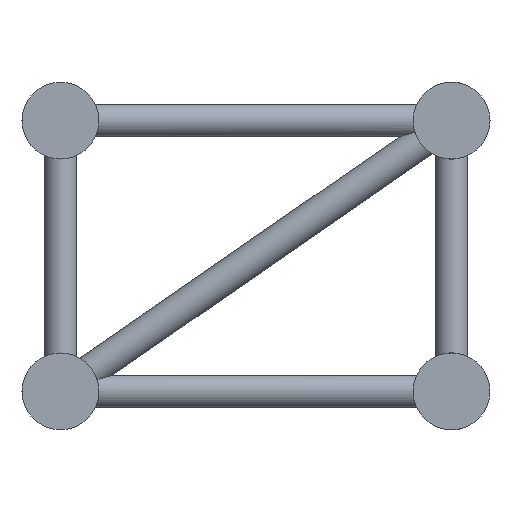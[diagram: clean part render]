
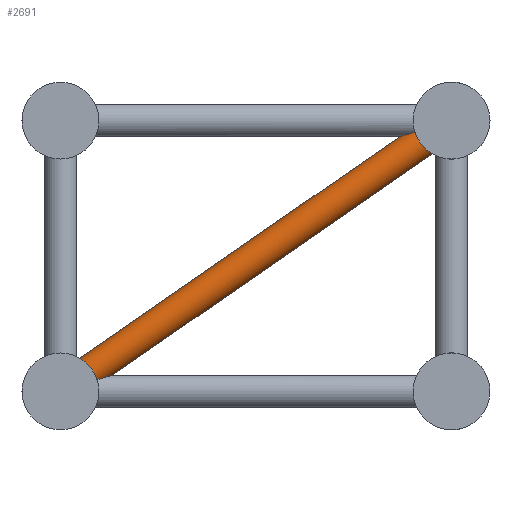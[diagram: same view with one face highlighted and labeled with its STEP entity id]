
A CAD part, left-side view. The second image highlights one B-rep face of the part: STEP entity #2691.
In plain terms, the highlighted cylindrical face has radius 12.5 mm (diameter 25 mm), a full revolution.
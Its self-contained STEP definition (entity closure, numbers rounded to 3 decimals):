
#48=ELLIPSE('',#2993,41.923,12.5);
#49=ELLIPSE('',#2994,41.923,12.5);
#180=FACE_BOUND('',#662,.T.);
#317=CYLINDRICAL_SURFACE('',#2992,12.5);
#434=FACE_OUTER_BOUND('',#661,.T.);
#661=EDGE_LOOP('',(#1913,#1914));
#662=EDGE_LOOP('',(#1915,#1916));
#937=CIRCLE('',#2987,12.5);
#938=CIRCLE('',#2991,12.5);
#1192=VERTEX_POINT('',#5274);
#1194=VERTEX_POINT('',#5278);
#1196=VERTEX_POINT('',#5283);
#1198=VERTEX_POINT('',#5287);
#1466=EDGE_CURVE('',#1194,#1192,#937,.T.);
#1470=EDGE_CURVE('',#1198,#1196,#938,.T.);
#1471=EDGE_CURVE('',#1192,#1194,#48,.T.);
#1472=EDGE_CURVE('',#1196,#1198,#49,.T.);
#1913=ORIENTED_EDGE('',*,*,#1471,.F.);
#1914=ORIENTED_EDGE('',*,*,#1466,.F.);
#1915=ORIENTED_EDGE('',*,*,#1472,.F.);
#1916=ORIENTED_EDGE('',*,*,#1470,.F.);
#2691=ADVANCED_FACE('',(#434,#180),#317,.T.);
#2987=AXIS2_PLACEMENT_3D('',#5280,#3600,#3601);
#2991=AXIS2_PLACEMENT_3D('',#5289,#3609,#3610);
#2992=AXIS2_PLACEMENT_3D('',#5290,#3611,#3612);
#2993=AXIS2_PLACEMENT_3D('',#5291,#3613,#3614);
#2994=AXIS2_PLACEMENT_3D('',#5292,#3615,#3616);
#3600=DIRECTION('center_axis',(0.,0.822,-0.569));
#3601=DIRECTION('ref_axis',(1.,0.,0.));
#3609=DIRECTION('center_axis',(0.,-0.822,
0.569));
#3610=DIRECTION('ref_axis',(1.,0.,0.));
#3611=DIRECTION('center_axis',(0.,-0.822,
0.569));
#3612=DIRECTION('ref_axis',(1.,0.,0.));
#3613=DIRECTION('center_axis',(0.,-0.298,
-0.955));
#3614=DIRECTION('ref_axis',(0.,0.955,-0.298));
#3615=DIRECTION('center_axis',(0.,0.298,
0.955));
#3616=DIRECTION('ref_axis',(0.,0.955,-0.298));
#5274=CARTESIAN_POINT('',(102.177,273.669,-199.087));
#5278=CARTESIAN_POINT('',(82.823,273.669,-199.087));
#5280=CARTESIAN_POINT('Origin',(92.5,278.173,-192.581));
#5283=CARTESIAN_POINT('',(102.177,25.331,-7.913));
#5287=CARTESIAN_POINT('',(82.823,25.331,-7.913));
#5289=CARTESIAN_POINT('Origin',(92.5,20.827,-14.419));
#5290=CARTESIAN_POINT('Origin',(92.5,278.173,-192.581));
#5291=CARTESIAN_POINT('Origin',(92.5,299.,-207.));
#5292=CARTESIAN_POINT('Origin',(92.5,0.,0.));
